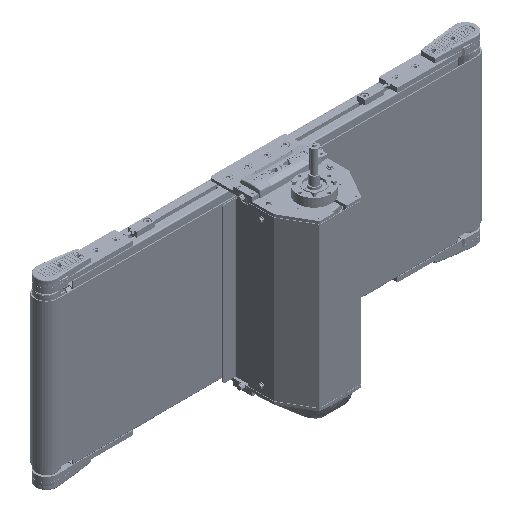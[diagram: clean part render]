
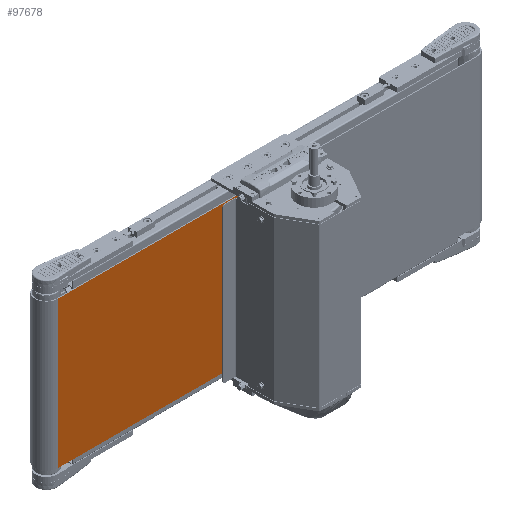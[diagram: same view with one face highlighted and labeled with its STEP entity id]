
A CAD part, isometric view. The second image highlights one B-rep face of the part: STEP entity #97678.
In plain terms, the highlighted planar face has unit normal (0, -1, 0).
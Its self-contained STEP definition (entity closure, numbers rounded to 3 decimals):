
#1450 = VECTOR ( 'NONE', #76880, 1000. ) ;
#4388 = CARTESIAN_POINT ( 'NONE',  ( -500., -27., 175. ) ) ;
#12055 = VECTOR ( 'NONE', #42794, 1000. ) ;
#36588 = ORIENTED_EDGE ( 'NONE', *, *, #116850, .F. ) ;
#38135 = ORIENTED_EDGE ( 'NONE', *, *, #141708, .T. ) ;
#39880 = VECTOR ( 'NONE', #77134, 1000. ) ;
#41152 = VERTEX_POINT ( 'NONE', #113220 ) ;
#42794 = DIRECTION ( 'NONE',  ( 1., 0., 0. ) ) ;
#44252 = LINE ( 'NONE', #131989, #1450 ) ;
#47269 = CARTESIAN_POINT ( 'NONE',  ( -500., -27., 175. ) ) ;
#54708 = CARTESIAN_POINT ( 'NONE',  ( -500., -27., 175. ) ) ;
#55360 = CARTESIAN_POINT ( 'NONE',  ( -500., -27., -175. ) ) ;
#59465 = FACE_OUTER_BOUND ( 'NONE', #74719, .T. ) ;
#69793 = AXIS2_PLACEMENT_3D ( 'NONE', #4388, #104461, #83427 ) ;
#70250 = CARTESIAN_POINT ( 'NONE',  ( -500., -27., -175. ) ) ;
#71290 = VECTOR ( 'NONE', #132318, 1000. ) ;
#74719 = EDGE_LOOP ( 'NONE', ( #38135, #36588, #106589, #106573 ) ) ;
#75062 = LINE ( 'NONE', #54708, #71290 ) ;
#76880 = DIRECTION ( 'NONE',  ( 0., 0., -1. ) ) ;
#77134 = DIRECTION ( 'NONE',  ( 1., 0., 0. ) ) ;
#78511 = VERTEX_POINT ( 'NONE', #120247 ) ;
#83427 = DIRECTION ( 'NONE',  ( -1., 0., 0. ) ) ;
#85362 = LINE ( 'NONE', #55360, #39880 ) ;
#86064 = EDGE_CURVE ( 'NONE', #127882, #93116, #75062, .T. ) ;
#93116 = VERTEX_POINT ( 'NONE', #70250 ) ;
#97678 = ADVANCED_FACE ( 'NONE', ( #59465 ), #103734, .F. ) ;
#99326 = CARTESIAN_POINT ( 'NONE',  ( -500., -27., 175. ) ) ;
#100281 = EDGE_CURVE ( 'NONE', #127882, #41152, #142131, .T. ) ;
#103734 = PLANE ( 'NONE',  #69793 ) ;
#104461 = DIRECTION ( 'NONE',  ( 0., 1., 0. ) ) ;
#106573 = ORIENTED_EDGE ( 'NONE', *, *, #86064, .T. ) ;
#106589 = ORIENTED_EDGE ( 'NONE', *, *, #100281, .F. ) ;
#113220 = CARTESIAN_POINT ( 'NONE',  ( -59., -27., 175. ) ) ;
#116850 = EDGE_CURVE ( 'NONE', #41152, #78511, #44252, .T. ) ;
#120247 = CARTESIAN_POINT ( 'NONE',  ( -59., -27., -175. ) ) ;
#127882 = VERTEX_POINT ( 'NONE', #47269 ) ;
#131989 = CARTESIAN_POINT ( 'NONE',  ( -59., -27., 175. ) ) ;
#132318 = DIRECTION ( 'NONE',  ( 0., 0., -1. ) ) ;
#141708 = EDGE_CURVE ( 'NONE', #93116, #78511, #85362, .T. ) ;
#142131 = LINE ( 'NONE', #99326, #12055 ) ;
